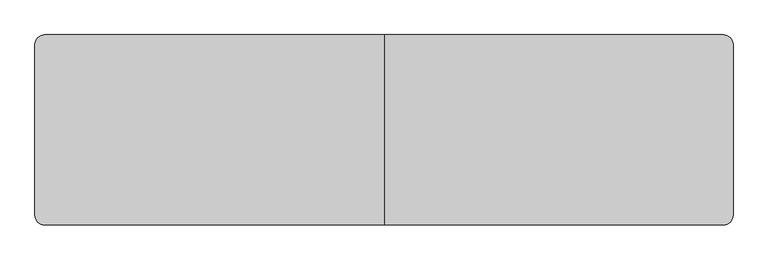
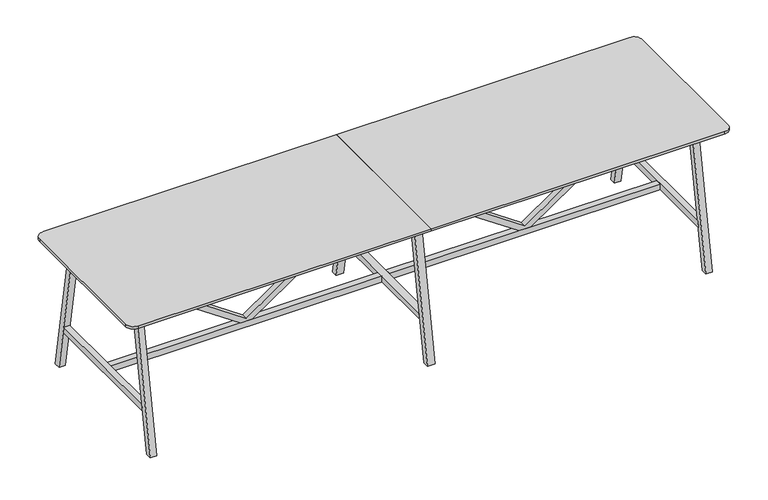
"""IFC4 building model written with IfcOpenShell, lengths in millimetres: furniture geometry, BDG_BossDesign_Tbls_AgentTables6Legs : AGE-HT-6L-4400-1200-3D."""

from ifc_helpers import new_model, si_unit, point, frame, frame_2d, origin, place, context, project, spatial, polyline, circle_curve, trimmed, segment, composite_curve, outline, extrude, source, transform, mapped, element, save


def furniture_fbad0ee9(model_context):
    return source(origin(), model_context, "Body", "SweptSolid", [
        extrude(outline(polyline([(345.0, 974.0823957), (345.0, 1058.4176043), (992.0, 2005.0), (1032.0, 2005.0), (1032.0, 1985.0), (365.0, 1016.25), (1032.0, 47.5), (1032.0, 27.5), (992.0, 27.5), (345.0, 974.0823957)])), frame((0.0, -22.5000305, 0.0), z_axis=(0.0, 1.0, 0.0), x_axis=(0.0, 0.0, 1.0)), (0.0, 0.0, 1.0), 45.000061),
        extrude(outline(polyline([(345.0, -974.0823957), (992.0, -27.5), (1032.0, -27.5), (1032.0, -47.5), (365.0, -1016.25), (1032.0, -1985.0), (1032.0, -2005.0), (992.0, -2005.0), (345.0, -1058.4176043), (345.0, -974.0823957)])), frame((0.0, -22.5000305, 0.0), z_axis=(0.0, 1.0, 0.0), x_axis=(0.0, 0.0, 1.0)), (0.0, 0.0, 1.0), 45.000061),
        extrude(outline(polyline([(600.0, 0.0), (554.9999949, 0.0), (385.5, 970.0), (430.5000051, 970.0), (600.0, 0.0)])), frame((-27.5, 0.0, 0.0), z_axis=(1.0, 0.0, 0.0), x_axis=(0.0, 1.0, 0.0)), (0.0, 0.0, 1.0), 55.0),
        extrude(outline(polyline([(-600.0, 0.0), (-430.5000051, 970.0), (-385.5, 970.0), (-554.9999949, 0.0), (-600.0, 0.0)])), frame((-27.5, 0.0, 0.0), z_axis=(1.0, 0.0, 0.0), x_axis=(0.0, 1.0, 0.0)), (0.0, 0.0, 1.0), 55.0),
        extrude(outline(polyline([(502.5773161, 300.0), (-502.5773161, 300.0), (-494.7139143, 345.0), (494.7139143, 345.0), (502.5773161, 300.0)])), frame((-27.5, 0.0, 0.0), z_axis=(1.0, 0.0, 0.0), x_axis=(0.0, 1.0, 0.0)), (0.0, 0.0, 1.0), 55.0),
        extrude(outline(composite_curve([segment(polyline([(0.0, 600.0), (0.0, -600.0), (-2140.0, -600.0)]), True, "CONTINUOUS"), segment(trimmed(circle_curve(frame_2d((-2140.0, -540.0)), 60.0), [point((-2140.0, -600.0))], [point((-2200.0, -540.0))], False, "CARTESIAN"), True, "CONTINUOUS"), segment(polyline([(-2200.0, -540.0), (-2200.0, 540.0)]), True, "CONTINUOUS"), segment(trimmed(circle_curve(frame_2d((-2140.0, 540.0)), 60.0), [point((-2200.0, 540.0))], [point((-2140.0, 600.0))], False, "CARTESIAN"), True, "CONTINUOUS"), segment(polyline([(-2140.0, 600.0), (0.0, 600.0)]), True, "CONTINUOUS")], self_intersect=False)), frame((0.0, 0.0, 1032.0), z_axis=(0.0, 0.0, 1.0), x_axis=(1.0, 0.0, 0.0)), (0.0, 0.0, 1.0), 18.0),
        extrude(outline(polyline([(-494.7139143, 345.0), (494.7139143, 345.0), (502.5773161, 300.0), (-502.5773161, 300.0), (-494.7139143, 345.0)])), frame((2005.0, 0.0, 0.0), z_axis=(1.0, 0.0, 0.0), x_axis=(0.0, 1.0, 0.0)), (0.0, 0.0, 1.0), 45.0),
        extrude(outline(polyline([(600.0, 0.0), (554.9999949, 0.0), (385.5, 970.0), (430.5000051, 970.0), (600.0, 0.0)])), frame((-2050.0, 0.0, 0.0), z_axis=(1.0, 0.0, 0.0), x_axis=(0.0, 1.0, 0.0)), (0.0, 0.0, 1.0), 45.0),
        extrude(outline(polyline([(-600.0, 0.0), (-430.5000051, 970.0), (-385.5, 970.0), (-554.9999949, 0.0), (-600.0, 0.0)])), frame((-2050.0, 0.0, 0.0), z_axis=(1.0, 0.0, 0.0), x_axis=(0.0, 1.0, 0.0)), (0.0, 0.0, 1.0), 45.0),
        extrude(outline(polyline([(-494.7139143, 345.0), (494.7139143, 345.0), (502.5773161, 300.0), (-502.5773161, 300.0), (-494.7139143, 345.0)])), frame((-2050.0, 0.0, 0.0), z_axis=(1.0, 0.0, 0.0), x_axis=(0.0, 1.0, 0.0)), (0.0, 0.0, 1.0), 45.0),
        extrude(outline(polyline([(-426.6006165, 944.973938), (-404.2770691, 1032.0), (-379.5, 1032.0), (-401.8235474, 944.973938), (-426.6006165, 944.973938)])), frame((-2005.0, 0.0, 0.0), z_axis=(1.0, 0.0, 0.0), x_axis=(0.0, 1.0, 0.0)), (0.0, 0.0, 1.0), 4010.0),
        extrude(outline(polyline([(426.6006165, 944.973938), (401.8235474, 944.973938), (379.5, 1032.0), (404.2770691, 1032.0), (426.6006165, 944.973938)])), frame((-2005.0, 0.0, 0.0), z_axis=(1.0, 0.0, 0.0), x_axis=(0.0, 1.0, 0.0)), (0.0, 0.0, 1.0), 4010.0),
        extrude(outline(polyline([(599.7999878, 0.0), (554.7999827, 0.0), (385.5, 970.0), (430.5000051, 970.0), (599.7999878, 0.0)])), frame((2005.0, 0.0, 0.0), z_axis=(1.0, 0.0, 0.0), x_axis=(0.0, 1.0, 0.0)), (0.0, 0.0, 1.0), 45.0),
        extrude(outline(polyline([(-599.7999878, 0.0), (-430.5000051, 970.0), (-385.5, 970.0), (-554.7999827, 0.0), (-599.7999878, 0.0)])), frame((2005.0, 0.0, 0.0), z_axis=(1.0, 0.0, 0.0), x_axis=(0.0, 1.0, 0.0)), (0.0, 0.0, 1.0), 45.0),
        extrude(outline(polyline([(-27.5, 22.5000305), (-27.5, -22.5000305), (-2005.0, -22.5000305), (-2005.0, 22.5000305), (-27.5, 22.5000305)])), frame((0.0, 0.0, 300.0), z_axis=(0.0, 0.0, 1.0), x_axis=(1.0, 0.0, 0.0)), (0.0, 0.0, 1.0), 45.0),
        extrude(outline(polyline([(27.5, -22.5000305), (27.5, 22.5000305), (2005.0, 22.5000305), (2005.0, -22.5000305), (27.5, -22.5000305)])), frame((0.0, 0.0, 300.0), z_axis=(0.0, 0.0, 1.0), x_axis=(1.0, 0.0, 0.0)), (0.0, 0.0, 1.0), 45.0),
        extrude(outline(composite_curve([segment(trimmed(circle_curve(frame_2d((2140.0, 540.0)), 60.0), [point((2140.0, 600.0))], [point((2200.0, 540.0))], False, "CARTESIAN"), True, "CONTINUOUS"), segment(polyline([(2200.0, 540.0), (2200.0, -540.0)]), True, "CONTINUOUS"), segment(trimmed(circle_curve(frame_2d((2140.0, -540.0)), 60.0), [point((2200.0, -540.0))], [point((2140.0, -600.0))], False, "CARTESIAN"), True, "CONTINUOUS"), segment(polyline([(2140.0, -600.0), (0.0, -600.0), (0.0, 600.0), (2140.0, 600.0)]), True, "CONTINUOUS")], self_intersect=False)), frame((0.0, 0.0, 1032.0), z_axis=(0.0, 0.0, 1.0), x_axis=(1.0, 0.0, 0.0)), (0.0, 0.0, 1.0), 18.0),
    ])


if __name__ == "__main__":
    model = new_model("IFC4")
    model_context = context("Model", 3, world=origin())
    ifc_project = project(units=[si_unit("LENGTHUNIT", "METRE", prefix="MILLI")], contexts=[model_context])
    site = spatial("IfcSite", under=ifc_project)
    building = spatial("IfcBuilding", under=site)
    placement = place(None, origin())
    furniture_shape = furniture_fbad0ee9(model_context)
    element("IfcFurniture", 1, ObjectType="BDG_BossDesign_Tbls_AgentTables6Legs : AGE-HT-6L-4400-1200-3D", at=placement, inside=building, context=model_context, shape_type="MappedRepresentation", body=[
        mapped(furniture_shape, transform((0.0, 0.0, 0.0), x_axis=(1.0, 0.0, 0.0), y_axis=(0.0, 1.0, 0.0), z_axis=(0.0, 0.0, 1.0))),
    ])
    save(model, "model.ifc")
